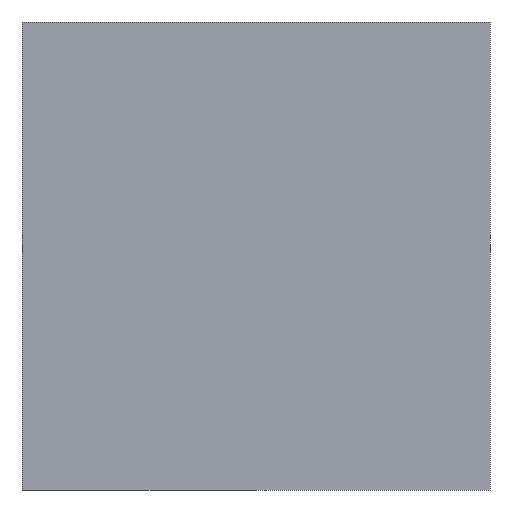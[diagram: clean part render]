
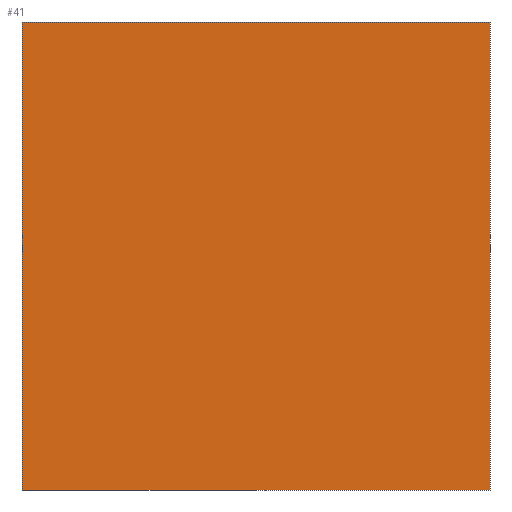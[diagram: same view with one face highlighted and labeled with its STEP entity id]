
A CAD part, left-side view. The second image highlights one B-rep face of the part: STEP entity #41.
In plain terms, the highlighted planar face has unit normal (-1, 0, 0).
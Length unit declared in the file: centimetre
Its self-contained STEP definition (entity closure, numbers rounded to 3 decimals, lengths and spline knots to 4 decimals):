
#5 = VECTOR ( 'NONE', #268, 100. ) ;
#23 = EDGE_LOOP ( 'NONE', ( #29, #233, #25, #202 ) ) ;
#25 = ORIENTED_EDGE ( 'NONE', *, *, #264, .F. ) ;
#26 = CARTESIAN_POINT ( 'NONE',  ( 0., 0., 0. ) ) ;
#29 = ORIENTED_EDGE ( 'NONE', *, *, #269, .T. ) ;
#32 = VERTEX_POINT ( 'NONE', #26 ) ;
#41 = ADVANCED_FACE ( 'NONE', ( #89 ), #177, .F. ) ;
#42 = DIRECTION ( 'NONE',  ( 0., -1., 0. ) ) ;
#44 = VECTOR ( 'NONE', #333, 100. ) ;
#45 = DIRECTION ( 'NONE',  ( 0., 0., -1. ) ) ;
#46 = CARTESIAN_POINT ( 'NONE',  ( 0., 0., 1000. ) ) ;
#59 = VERTEX_POINT ( 'NONE', #46 ) ;
#89 = FACE_OUTER_BOUND ( 'NONE', #23, .T. ) ;
#95 = VECTOR ( 'NONE', #42, 100. ) ;
#96 = LINE ( 'NONE', #214, #44 ) ;
#101 = DIRECTION ( 'NONE',  ( 0., 0., -1. ) ) ;
#109 = VERTEX_POINT ( 'NONE', #306 ) ;
#152 = CARTESIAN_POINT ( 'NONE',  ( 0., 0., 1000. ) ) ;
#159 = CARTESIAN_POINT ( 'NONE',  ( 0., 1000., 1000. ) ) ;
#177 = PLANE ( 'NONE',  #200 ) ;
#179 = LINE ( 'NONE', #303, #95 ) ;
#180 = CARTESIAN_POINT ( 'NONE',  ( 0., 1000., 1000. ) ) ;
#200 = AXIS2_PLACEMENT_3D ( 'NONE', #204, #302, #101 ) ;
#202 = ORIENTED_EDGE ( 'NONE', *, *, #344, .T. ) ;
#204 = CARTESIAN_POINT ( 'NONE',  ( 0., 1000., 1000. ) ) ;
#214 = CARTESIAN_POINT ( 'NONE',  ( 0., 1000., 1000. ) ) ;
#233 = ORIENTED_EDGE ( 'NONE', *, *, #238, .F. ) ;
#238 = EDGE_CURVE ( 'NONE', #59, #32, #299, .T. ) ;
#264 = EDGE_CURVE ( 'NONE', #294, #59, #96, .T. ) ;
#268 = DIRECTION ( 'NONE',  ( 0., 0., -1. ) ) ;
#269 = EDGE_CURVE ( 'NONE', #109, #32, #179, .T. ) ;
#276 = LINE ( 'NONE', #180, #323 ) ;
#294 = VERTEX_POINT ( 'NONE', #159 ) ;
#299 = LINE ( 'NONE', #152, #5 ) ;
#302 = DIRECTION ( 'NONE',  ( 1., 0., 0. ) ) ;
#303 = CARTESIAN_POINT ( 'NONE',  ( 0., 1000., 0. ) ) ;
#306 = CARTESIAN_POINT ( 'NONE',  ( 0., 1000., 0. ) ) ;
#323 = VECTOR ( 'NONE', #45, 100. ) ;
#333 = DIRECTION ( 'NONE',  ( 0., -1., 0. ) ) ;
#344 = EDGE_CURVE ( 'NONE', #294, #109, #276, .T. ) ;
